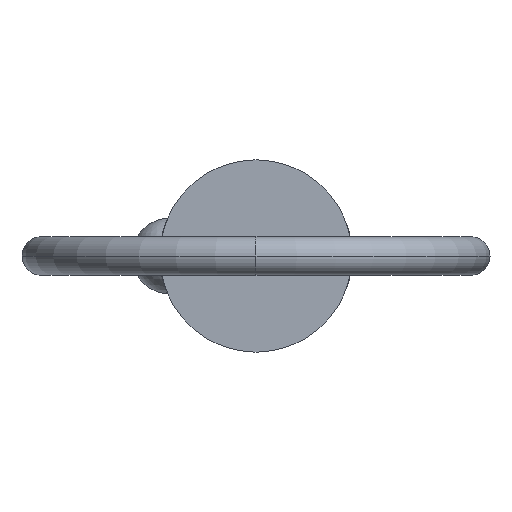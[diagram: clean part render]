
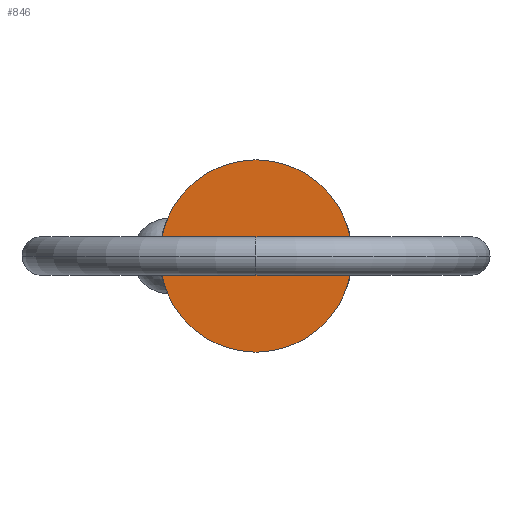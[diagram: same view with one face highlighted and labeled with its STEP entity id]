
A CAD part, left-side view. The second image highlights one B-rep face of the part: STEP entity #846.
In plain terms, the highlighted planar face has unit normal (-1, 0, 0).
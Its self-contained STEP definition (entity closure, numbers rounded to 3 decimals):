
#8 = CARTESIAN_POINT ( 'NONE',  ( 0., 0., 7.11 ) ) ;
#107 = EDGE_CURVE ( 'NONE', #249, #868, #755, .T. ) ;
#110 = ORIENTED_EDGE ( 'NONE', *, *, #421, .F. ) ;
#130 = DIRECTION ( 'NONE',  ( 0., 0., -1. ) ) ;
#160 = CARTESIAN_POINT ( 'NONE',  ( 0., 0., 0. ) ) ;
#197 = CARTESIAN_POINT ( 'NONE',  ( 0., 0., 0. ) ) ;
#203 = CARTESIAN_POINT ( 'NONE',  ( 0., 0., 0. ) ) ;
#249 = VERTEX_POINT ( 'NONE', #8 ) ;
#344 = ORIENTED_EDGE ( 'NONE', *, *, #107, .F. ) ;
#351 = DIRECTION ( 'NONE',  ( 0., 0., 1. ) ) ;
#373 = EDGE_LOOP ( 'NONE', ( #110, #344 ) ) ;
#403 = FACE_OUTER_BOUND ( 'NONE', #373, .T. ) ;
#409 = AXIS2_PLACEMENT_3D ( 'NONE', #160, #572, #426 ) ;
#421 = EDGE_CURVE ( 'NONE', #868, #249, #800, .T. ) ;
#426 = DIRECTION ( 'NONE',  ( 0., 0., -1. ) ) ;
#464 = CARTESIAN_POINT ( 'NONE',  ( 0., 0., -7.11 ) ) ;
#507 = AXIS2_PLACEMENT_3D ( 'NONE', #203, #546, #351 ) ;
#546 = DIRECTION ( 'NONE',  ( -1., 0., 0. ) ) ;
#572 = DIRECTION ( 'NONE',  ( 1., 0., 0. ) ) ;
#711 = AXIS2_PLACEMENT_3D ( 'NONE', #197, #749, #130 ) ;
#749 = DIRECTION ( 'NONE',  ( 1., 0., 0. ) ) ;
#755 = CIRCLE ( 'NONE', #711, 7.11 ) ;
#800 = CIRCLE ( 'NONE', #409, 7.11 ) ;
#830 = PLANE ( 'NONE',  #507 ) ;
#846 = ADVANCED_FACE ( 'NONE', ( #403 ), #830, .T. ) ;
#868 = VERTEX_POINT ( 'NONE', #464 ) ;
